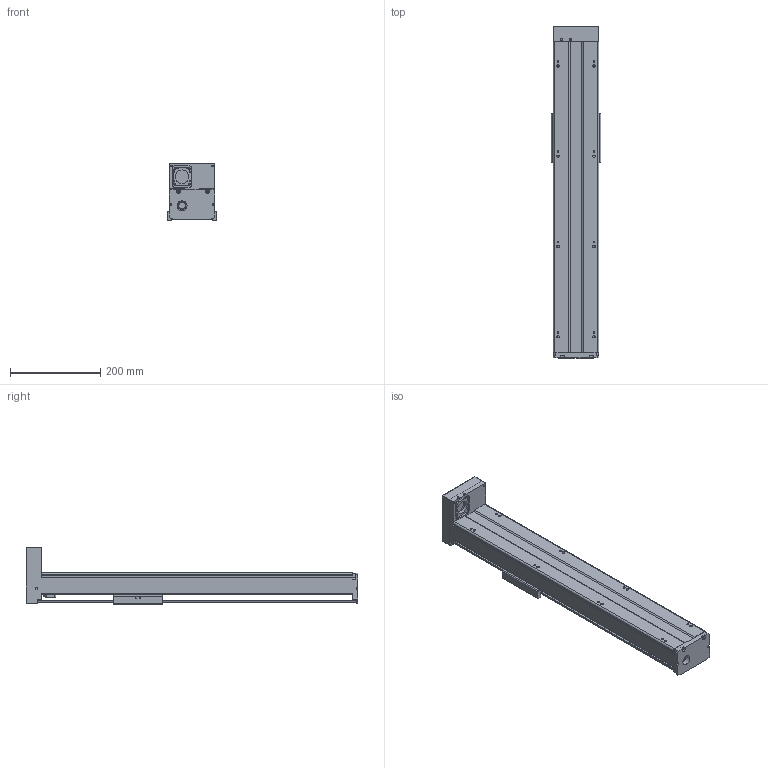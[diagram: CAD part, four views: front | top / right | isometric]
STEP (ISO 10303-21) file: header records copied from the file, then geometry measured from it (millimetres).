
FILE_DESCRIPTION(/* description */ (''),/* implementation_level */ '2;1');
FILE_NAME(/* name */ 'TKA100-FD-500_asm1.stp',/* time_stamp */ '2016-05-16T15:20:35+08:00',/* author */ (''),/* organization */ (''),/* preprocessor_version */ 'ST-DEVELOPER v15',/* originating_system */ 'SIEMENS PLM Software NX 8.5',/* authorisation */ '');
FILE_SCHEMA (('AUTOMOTIVE_DESIGN { 1 0 10303 214 3 1 1 1 }'));
Length unit declared in the file: millimetre
Products named in the file (3): 200-02; 200-01; TKA100-FD-500_asm1
Assembly tree (2 placements, depth 2):
  TKA100-FD-500_asm1
    200-01
    200-02
Bounding box: 110 x 736 x 127 mm (x, y, z)
Volume: 1673220.6 mm3; surface area: 582429 mm2
Topology: 2 solids, 9 shells, 771 faces, 1998 edges, 1295 vertices
Faces by surface type: cylinder 297, plane 292, cone 118, torus 38, bspline 26
Full cylindrical faces by diameter (mm): 2.5 x6, 2.6 x8, 3.3 x10, 3.4 x8, 3.8 x8, 4.2 x17, 4.3 x4, 4.5 x8, 5 x1, 5.5 x18, 6.6 x4, 8 x5, 9 x4, 10 x10, 11 x4, 12 x7, 15.3 x1, 16 x1, 22 x1, 24 x1, 28 x4, 30 x1, 33 x1
Entity records: 27892 total; most frequent: CARTESIAN_POINT 9962, DIRECTION 3738, ORIENTED_EDGE 3424, EDGE_CURVE 1712, AXIS2_PLACEMENT_3D 1488, VERTEX_POINT 1217, EDGE_LOOP 1092, ADVANCED_FACE 771
